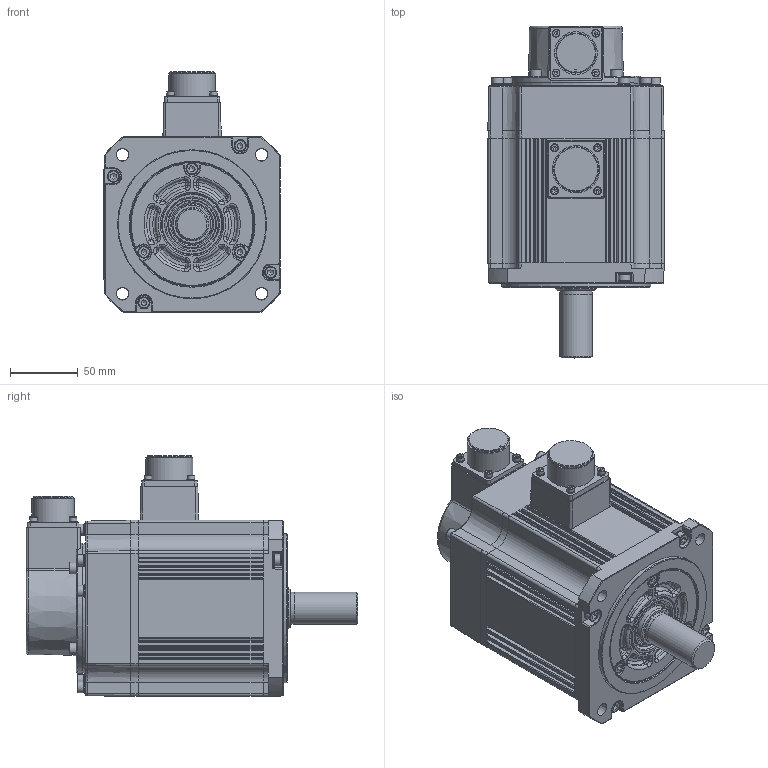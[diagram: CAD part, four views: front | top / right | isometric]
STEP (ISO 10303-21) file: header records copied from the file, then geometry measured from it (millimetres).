
FILE_DESCRIPTION((''),'2;1');
FILE_NAME('C:\Documents and Settings\11644\桌面\SME-L200B.stp','2016-07-15T19:40:57',('11644'),(''),'Autodesk Inventor 2008','Autodesk Inventor 2008','');
FILE_SCHEMA(('AUTOMOTIVE_DESIGN { 1 0 10303 214 1 1 1 1 }'));
Length unit declared in the file: millimetre
Products named in the file (2): SME-L200B; SME-L200B_69
Assembly tree (1 placements, depth 2):
  SME-L200B
    SME-L200B_69
Bounding box: 130.1 x 244.9 x 177.8 mm (x, y, z)
Volume: 2527030.4 mm3; surface area: 163713.7 mm2
Topology: 1 solids, 1 shells, 1071 faces, 2642 edges, 1641 vertices
Faces by surface type: plane 486, cylinder 309, torus 118, cone 84, bspline 66, sphere 8
Full cylindrical faces by diameter (mm): 5.5 x8, 5.82 x8, 8.5 x18, 8.97 x14, 23.8 x1, 24 x1, 29.5 x1, 30 x1, 31.5 x1, 33 x1, 34.7 x1, 35.319 x1, 40.504 x1, 45 x1, 92 x1, 95.8 x1, 110 x1
Entity records: 33950 total; most frequent: CARTESIAN_POINT 8839, DIRECTION 5009, ORIENTED_EDGE 4750, EDGE_CURVE 2375, AXIS2_PLACEMENT_3D 1898, VERTEX_POINT 1556, EDGE_LOOP 1329, VECTOR 1213
